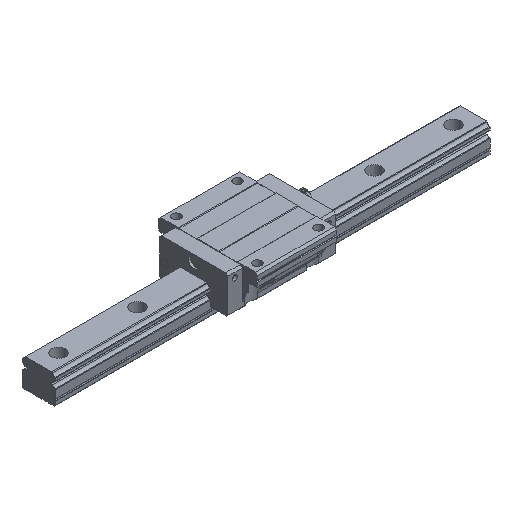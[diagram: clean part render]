
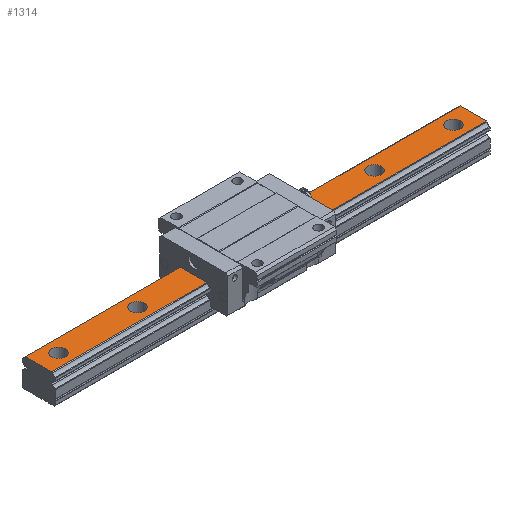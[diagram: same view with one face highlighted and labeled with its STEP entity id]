
A CAD part, isometric view. The second image highlights one B-rep face of the part: STEP entity #1314.
In plain terms, the highlighted planar face has unit normal (0, 0, 1).
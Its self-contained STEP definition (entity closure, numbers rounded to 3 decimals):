
#137=CARTESIAN_POINT('',(427.0,0.,29.));
#138=VERTEX_POINT('',#137);
#139=CARTESIAN_POINT('',(420.0,0.,29.));
#140=DIRECTION('',(0.0,0.0,-1.0));
#141=DIRECTION('',(1.0,0.0,0.0));
#142=AXIS2_PLACEMENT_3D('',#139,#140,#141);
#143=CIRCLE('',#142,7.);
#144=EDGE_CURVE('',#138,#138,#143,.T.);
#247=CARTESIAN_POINT('',(347.0,0.,29.));
#248=VERTEX_POINT('',#247);
#249=CARTESIAN_POINT('',(340.0,0.,29.));
#250=DIRECTION('',(0.0,0.0,-1.0));
#251=DIRECTION('',(1.0,0.0,0.0));
#252=AXIS2_PLACEMENT_3D('',#249,#250,#251);
#253=CIRCLE('',#252,7.);
#254=EDGE_CURVE('',#248,#248,#253,.T.);
#357=CARTESIAN_POINT('',(267.0,0.,29.));
#358=VERTEX_POINT('',#357);
#359=CARTESIAN_POINT('',(260.0,0.,29.));
#360=DIRECTION('',(0.0,0.0,-1.0));
#361=DIRECTION('',(1.0,0.0,0.0));
#362=AXIS2_PLACEMENT_3D('',#359,#360,#361);
#363=CIRCLE('',#362,7.);
#364=EDGE_CURVE('',#358,#358,#363,.T.);
#467=CARTESIAN_POINT('',(187.0,0.,29.));
#468=VERTEX_POINT('',#467);
#469=CARTESIAN_POINT('',(180.0,0.,29.));
#470=DIRECTION('',(0.0,0.0,-1.0));
#471=DIRECTION('',(1.0,0.0,0.0));
#472=AXIS2_PLACEMENT_3D('',#469,#470,#471);
#473=CIRCLE('',#472,7.);
#474=EDGE_CURVE('',#468,#468,#473,.T.);
#577=CARTESIAN_POINT('',(107.,0.,29.));
#578=VERTEX_POINT('',#577);
#579=CARTESIAN_POINT('',(100.0,0.,29.));
#580=DIRECTION('',(0.0,0.0,-1.0));
#581=DIRECTION('',(1.0,0.0,0.0));
#582=AXIS2_PLACEMENT_3D('',#579,#580,#581);
#583=CIRCLE('',#582,7.);
#584=EDGE_CURVE('',#578,#578,#583,.T.);
#687=CARTESIAN_POINT('',(27.0,0.,29.));
#688=VERTEX_POINT('',#687);
#689=CARTESIAN_POINT('',(20.0,0.,29.));
#690=DIRECTION('',(0.0,0.0,-1.0));
#691=DIRECTION('',(1.0,0.0,0.0));
#692=AXIS2_PLACEMENT_3D('',#689,#690,#691);
#693=CIRCLE('',#692,7.);
#694=EDGE_CURVE('',#688,#688,#693,.T.);
#1240=CARTESIAN_POINT('',(440.0,-13.264,29.));
#1241=VERTEX_POINT('',#1240);
#1248=CARTESIAN_POINT('',(0.0,-13.264,29.));
#1249=VERTEX_POINT('',#1248);
#1250=CARTESIAN_POINT('',(0.0,-13.264,29.));
#1251=DIRECTION('',(1.0,0.0,0.0));
#1252=VECTOR('',#1251,440.0);
#1253=LINE('',#1250,#1252);
#1254=EDGE_CURVE('',#1249,#1241,#1253,.T.);
#1266=CARTESIAN_POINT('',(0.0,-13.264,29.));
#1267=DIRECTION('',(0.0,0.0,1.0));
#1268=DIRECTION('',(1.0,0.0,0.0));
#1269=AXIS2_PLACEMENT_3D('',#1266,#1267,#1268);
#1270=PLANE('',#1269);
#1271=CARTESIAN_POINT('',(440.0,13.264,29.));
#1272=VERTEX_POINT('',#1271);
#1273=CARTESIAN_POINT('',(440.0,-13.264,29.));
#1274=DIRECTION('',(0.0,1.0,0.0));
#1275=VECTOR('',#1274,26.527);
#1276=LINE('',#1273,#1275);
#1277=EDGE_CURVE('',#1241,#1272,#1276,.T.);
#1278=ORIENTED_EDGE('',*,*,#1277,.T.);
#1279=CARTESIAN_POINT('',(0.0,13.264,29.));
#1280=VERTEX_POINT('',#1279);
#1281=CARTESIAN_POINT('',(0.0,13.264,29.));
#1282=DIRECTION('',(1.0,0.0,0.0));
#1283=VECTOR('',#1282,440.0);
#1284=LINE('',#1281,#1283);
#1285=EDGE_CURVE('',#1280,#1272,#1284,.T.);
#1286=ORIENTED_EDGE('',*,*,#1285,.F.);
#1287=CARTESIAN_POINT('',(0.0,13.264,29.));
#1288=DIRECTION('',(0.0,-1.0,0.0));
#1289=VECTOR('',#1288,26.527);
#1290=LINE('',#1287,#1289);
#1291=EDGE_CURVE('',#1280,#1249,#1290,.T.);
#1292=ORIENTED_EDGE('',*,*,#1291,.T.);
#1293=ORIENTED_EDGE('',*,*,#1254,.T.);
#1294=EDGE_LOOP('',(#1278,#1286,#1292,#1293));
#1295=FACE_OUTER_BOUND('',#1294,.T.);
#1296=ORIENTED_EDGE('',*,*,#144,.T.);
#1297=EDGE_LOOP('',(#1296));
#1298=FACE_BOUND('',#1297,.T.);
#1299=ORIENTED_EDGE('',*,*,#254,.T.);
#1300=EDGE_LOOP('',(#1299));
#1301=FACE_BOUND('',#1300,.T.);
#1302=ORIENTED_EDGE('',*,*,#364,.T.);
#1303=EDGE_LOOP('',(#1302));
#1304=FACE_BOUND('',#1303,.T.);
#1305=ORIENTED_EDGE('',*,*,#474,.T.);
#1306=EDGE_LOOP('',(#1305));
#1307=FACE_BOUND('',#1306,.T.);
#1308=ORIENTED_EDGE('',*,*,#584,.T.);
#1309=EDGE_LOOP('',(#1308));
#1310=FACE_BOUND('',#1309,.T.);
#1311=ORIENTED_EDGE('',*,*,#694,.T.);
#1312=EDGE_LOOP('',(#1311));
#1313=FACE_BOUND('',#1312,.T.);
#1314=ADVANCED_FACE('',(#1295,#1298,#1301,#1304,#1307,#1310,#1313),#1270,.T.);
